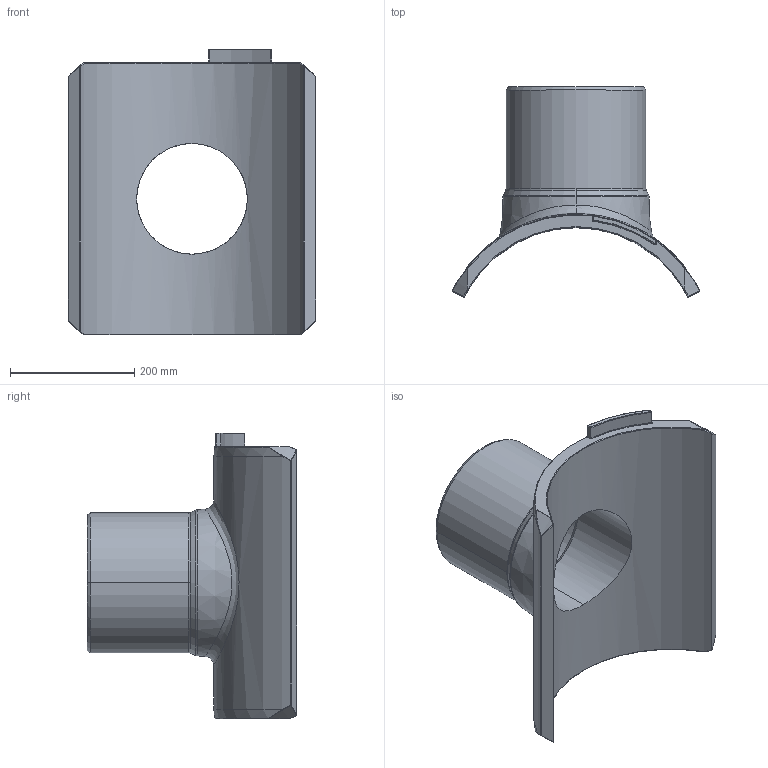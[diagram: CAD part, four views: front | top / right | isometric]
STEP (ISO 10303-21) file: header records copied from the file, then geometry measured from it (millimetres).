
FILE_DESCRIPTION((''),'2;1');
FILE_NAME('SA-UNI_D400_225_01','2024-10-29T13:40:47',('mikulicp'),(''),'CREO PARAMETRIC BY PTC INC, 2024133','CREO PARAMETRIC BY PTC INC, 2024133','');
FILE_SCHEMA(('AP242_MANAGED_MODEL_BASED_3D_ENGINEERING_MIM_LF { 1 0 10303 442 1 1 4 }'));
Length unit declared in the file: millimetre
Products named in the file (2): SA-UNI_D400_225_01; PE100
Bounding box: 397.99 x 337.63 x 460 mm (x, y, z)
Volume: 7213951.1 mm3; surface area: 682952.2 mm2
Topology: 1 solids, 1 shells, 245 faces, 589 edges, 362 vertices
Faces by surface type: bspline 77, plane 68, cylinder 49, sphere 22, torus 17, cone 12
Entity records: 15160 total; most frequent: CARTESIAN_POINT 6952, ORIENTED_EDGE 1178, DIRECTION 890, PRESENTATION_STYLE_ASSIGNMENT 601, STYLED_ITEM 590, CURVE_STYLE 589, EDGE_CURVE 589, VERTEX_POINT 362
